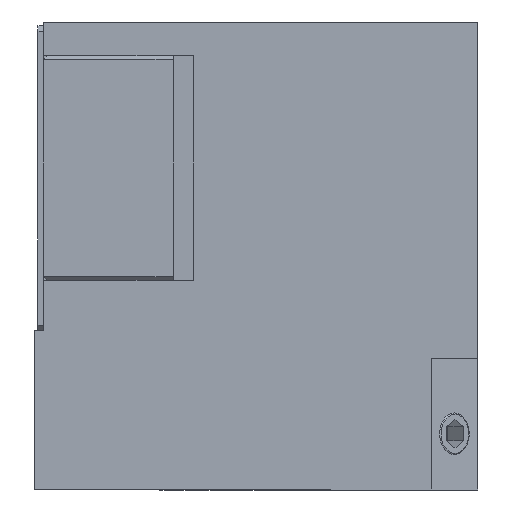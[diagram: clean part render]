
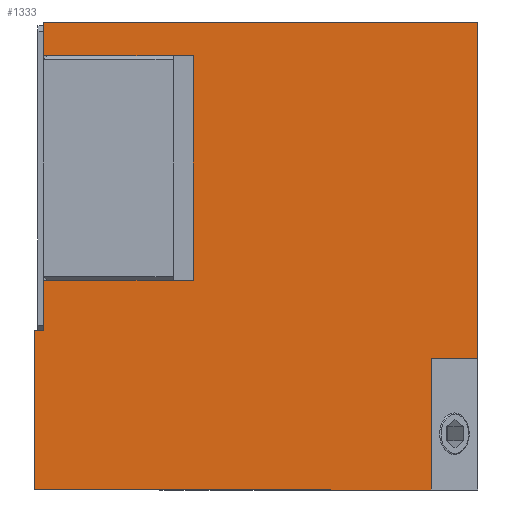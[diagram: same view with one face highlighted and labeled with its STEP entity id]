
A CAD part, left-side view. The second image highlights one B-rep face of the part: STEP entity #1333.
In plain terms, the highlighted planar face has unit normal (-1, 0, 0).
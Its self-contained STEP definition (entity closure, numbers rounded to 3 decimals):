
#34 = DIRECTION ( 'NONE',  ( 0., -1., 0. ) ) ;
#122 = VECTOR ( 'NONE', #2982, 1000. ) ;
#136 = EDGE_CURVE ( 'NONE', #2868, #803, #2466, .T. ) ;
#140 = EDGE_CURVE ( 'NONE', #482, #2842, #2950, .T. ) ;
#173 = VECTOR ( 'NONE', #1155, 1000. ) ;
#179 = CARTESIAN_POINT ( 'NONE',  ( -9., -9., 15. ) ) ;
#267 = CARTESIAN_POINT ( 'NONE',  ( -9., 14.2, 15. ) ) ;
#361 = VERTEX_POINT ( 'NONE', #2616 ) ;
#383 = CARTESIAN_POINT ( 'NONE',  ( -9., 14.2, 13.2 ) ) ;
#396 = CARTESIAN_POINT ( 'NONE',  ( -9., -6.5, -3. ) ) ;
#416 = ORIENTED_EDGE ( 'NONE', *, *, #2120, .F. ) ;
#436 = VECTOR ( 'NONE', #633, 1000. ) ;
#437 = EDGE_CURVE ( 'NONE', #2842, #361, #630, .T. ) ;
#451 = DIRECTION ( 'NONE',  ( 0., 1., 0. ) ) ;
#454 = DIRECTION ( 'NONE',  ( 0., 0., -1. ) ) ;
#482 = VERTEX_POINT ( 'NONE', #1659 ) ;
#533 = ORIENTED_EDGE ( 'NONE', *, *, #1515, .T. ) ;
#630 = LINE ( 'NONE', #2209, #173 ) ;
#633 = DIRECTION ( 'NONE',  ( 0., 0., -1. ) ) ;
#640 = CARTESIAN_POINT ( 'NONE',  ( -9., 14.7, -1.5 ) ) ;
#644 = CARTESIAN_POINT ( 'NONE',  ( -9., -6.5, -10. ) ) ;
#698 = LINE ( 'NONE', #1714, #1183 ) ;
#752 = ORIENTED_EDGE ( 'NONE', *, *, #1360, .T. ) ;
#803 = VERTEX_POINT ( 'NONE', #1104 ) ;
#812 = VERTEX_POINT ( 'NONE', #2423 ) ;
#845 = EDGE_CURVE ( 'NONE', #361, #2244, #698, .T. ) ;
#877 = VECTOR ( 'NONE', #2184, 1000. ) ;
#928 = VECTOR ( 'NONE', #34, 1000. ) ;
#977 = DIRECTION ( 'NONE',  ( 0., 0., -1. ) ) ;
#983 = LINE ( 'NONE', #267, #2315 ) ;
#1007 = PLANE ( 'NONE',  #2152 ) ;
#1029 = VECTOR ( 'NONE', #1412, 1000. ) ;
#1060 = LINE ( 'NONE', #1344, #1774 ) ;
#1089 = CARTESIAN_POINT ( 'NONE',  ( -9., -9., 15. ) ) ;
#1104 = CARTESIAN_POINT ( 'NONE',  ( -9., -9., -3. ) ) ;
#1152 = LINE ( 'NONE', #2174, #2529 ) ;
#1155 = DIRECTION ( 'NONE',  ( 0., 0., -1. ) ) ;
#1183 = VECTOR ( 'NONE', #451, 1000. ) ;
#1188 = ORIENTED_EDGE ( 'NONE', *, *, #845, .T. ) ;
#1266 = VERTEX_POINT ( 'NONE', #2169 ) ;
#1284 = ORIENTED_EDGE ( 'NONE', *, *, #1419, .F. ) ;
#1300 = VECTOR ( 'NONE', #2858, 1000. ) ;
#1333 = ADVANCED_FACE ( 'NONE', ( #3065 ), #1007, .F. ) ;
#1344 = CARTESIAN_POINT ( 'NONE',  ( -9., 14.7, -1.5 ) ) ;
#1360 = EDGE_CURVE ( 'NONE', #2244, #3008, #2498, .T. ) ;
#1370 = LINE ( 'NONE', #1836, #1300 ) ;
#1412 = DIRECTION ( 'NONE',  ( 0., 0., -1. ) ) ;
#1415 = ORIENTED_EDGE ( 'NONE', *, *, #2194, .F. ) ;
#1419 = EDGE_CURVE ( 'NONE', #2977, #2868, #2132, .T. ) ;
#1438 = ORIENTED_EDGE ( 'NONE', *, *, #437, .T. ) ;
#1515 = EDGE_CURVE ( 'NONE', #3008, #2924, #1060, .T. ) ;
#1601 = EDGE_CURVE ( 'NONE', #1266, #2374, #1680, .T. ) ;
#1628 = CARTESIAN_POINT ( 'NONE',  ( -9., 6.2, 13.2 ) ) ;
#1659 = CARTESIAN_POINT ( 'NONE',  ( -9., 14.2, 13.2 ) ) ;
#1680 = LINE ( 'NONE', #396, #1029 ) ;
#1714 = CARTESIAN_POINT ( 'NONE',  ( -9., 14.2, 1.2 ) ) ;
#1748 = ORIENTED_EDGE ( 'NONE', *, *, #1866, .F. ) ;
#1774 = VECTOR ( 'NONE', #2082, 1000. ) ;
#1836 = CARTESIAN_POINT ( 'NONE',  ( -9., 14.7, -10. ) ) ;
#1866 = EDGE_CURVE ( 'NONE', #803, #1266, #1152, .T. ) ;
#1911 = EDGE_CURVE ( 'NONE', #2977, #482, #983, .T. ) ;
#1999 = ORIENTED_EDGE ( 'NONE', *, *, #136, .F. ) ;
#2033 = ORIENTED_EDGE ( 'NONE', *, *, #140, .T. ) ;
#2082 = DIRECTION ( 'NONE',  ( 0., 1., 0. ) ) ;
#2120 = EDGE_CURVE ( 'NONE', #2374, #812, #1370, .T. ) ;
#2132 = LINE ( 'NONE', #2637, #928 ) ;
#2152 = AXIS2_PLACEMENT_3D ( 'NONE', #2531, #3297, #977 ) ;
#2169 = CARTESIAN_POINT ( 'NONE',  ( -9., -6.5, -3. ) ) ;
#2174 = CARTESIAN_POINT ( 'NONE',  ( -9., -9., -3. ) ) ;
#2184 = DIRECTION ( 'NONE',  ( 0., 0., 1. ) ) ;
#2194 = EDGE_CURVE ( 'NONE', #812, #2924, #2922, .T. ) ;
#2209 = CARTESIAN_POINT ( 'NONE',  ( -9., 6.2, 13.2 ) ) ;
#2243 = CARTESIAN_POINT ( 'NONE',  ( -9., 14.2, -1.5 ) ) ;
#2244 = VERTEX_POINT ( 'NONE', #3021 ) ;
#2315 = VECTOR ( 'NONE', #454, 1000. ) ;
#2374 = VERTEX_POINT ( 'NONE', #644 ) ;
#2423 = CARTESIAN_POINT ( 'NONE',  ( -9., 14.7, -10. ) ) ;
#2466 = LINE ( 'NONE', #179, #436 ) ;
#2498 = LINE ( 'NONE', #2763, #3268 ) ;
#2529 = VECTOR ( 'NONE', #3185, 1000. ) ;
#2531 = CARTESIAN_POINT ( 'NONE',  ( -9., -9., 15. ) ) ;
#2616 = CARTESIAN_POINT ( 'NONE',  ( -9., 6.2, 1.2 ) ) ;
#2637 = CARTESIAN_POINT ( 'NONE',  ( -9., 14.7, 15. ) ) ;
#2656 = ORIENTED_EDGE ( 'NONE', *, *, #1601, .F. ) ;
#2763 = CARTESIAN_POINT ( 'NONE',  ( -9., 14.2, 15. ) ) ;
#2842 = VERTEX_POINT ( 'NONE', #1628 ) ;
#2858 = DIRECTION ( 'NONE',  ( 0., 1., 0. ) ) ;
#2868 = VERTEX_POINT ( 'NONE', #1089 ) ;
#2922 = LINE ( 'NONE', #3168, #877 ) ;
#2924 = VERTEX_POINT ( 'NONE', #640 ) ;
#2950 = LINE ( 'NONE', #383, #122 ) ;
#2977 = VERTEX_POINT ( 'NONE', #3224 ) ;
#2982 = DIRECTION ( 'NONE',  ( 0., -1., 0. ) ) ;
#2983 = ORIENTED_EDGE ( 'NONE', *, *, #1911, .T. ) ;
#3008 = VERTEX_POINT ( 'NONE', #2243 ) ;
#3021 = CARTESIAN_POINT ( 'NONE',  ( -9., 14.2, 1.2 ) ) ;
#3065 = FACE_OUTER_BOUND ( 'NONE', #3100, .T. ) ;
#3100 = EDGE_LOOP ( 'NONE', ( #416, #2656, #1748, #1999, #1284, #2983, #2033, #1438, #1188, #752, #533, #1415 ) ) ;
#3168 = CARTESIAN_POINT ( 'NONE',  ( -9., 14.7, 15. ) ) ;
#3185 = DIRECTION ( 'NONE',  ( 0., 1., 0. ) ) ;
#3224 = CARTESIAN_POINT ( 'NONE',  ( -9., 14.2, 15. ) ) ;
#3263 = DIRECTION ( 'NONE',  ( 0., 0., -1. ) ) ;
#3268 = VECTOR ( 'NONE', #3263, 1000. ) ;
#3297 = DIRECTION ( 'NONE',  ( 1., 0., 0. ) ) ;
